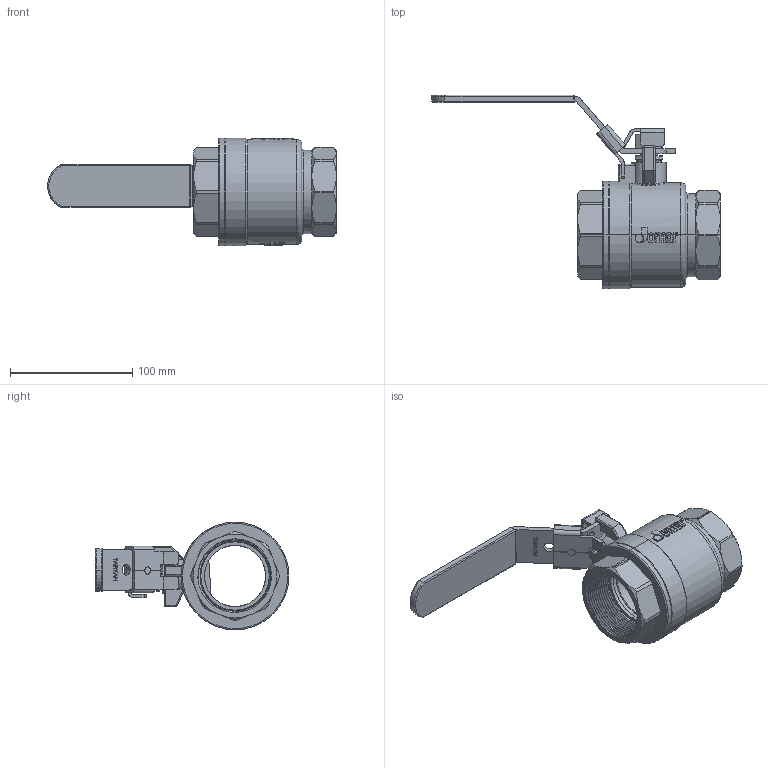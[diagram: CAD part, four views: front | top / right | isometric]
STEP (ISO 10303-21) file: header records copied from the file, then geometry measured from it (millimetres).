
FILE_DESCRIPTION (( 'STEP AP203' ), '1' );
FILE_NAME ('ABL748-有掛鎖-2''''JOMAR 球閥體組合-無鉛無插溝.STEP', '2025-12-15T07:51:58', ( '' ), ( '' ), 'SwSTEP 2.0', 'SolidWorks 2018', '' );
FILE_SCHEMA (( 'CONFIG_CONTROL_DESIGN' ));
Length unit declared in the file: millimetre
Products named in the file (14): EBL208C; BBL708A-2''''JOMAR八角頭-無鉛無插溝; DN40 & DN50-CBL747-白色膠套-T&G-200CSSG-LH; TBL269; EBL308; DN40-DN50-CBL747-HANDLE & SLEEVE 掛鎖組合; ABL748-有掛鎖-2''''JOMAR 球閥體組合-無鉛無插溝; BBL708-2''''JOMAR球閥體-無鉛-無插溝; DN50-本玛рも-CBL238э; DN50-掛鎖; EBL208B; NBL268; RBL267; GBL218
Assembly tree (14 placements, depth 3):
  ABL748-有掛鎖-2''''JOMAR 球閥體組合-無鉛無插溝
    BBL708-2''''JOMAR球閥體-無鉛-無插溝
    EBL208C
    EBL208B
    RBL267
    GBL218
    BBL708A-2''''JOMAR八角頭-無鉛無插溝
    EBL308  x2
    NBL268
    TBL269
    DN40-DN50-CBL747-HANDLE & SLEEVE 掛鎖組合
      DN50-本玛рも-CBL238э
      DN50-掛鎖
    DN40 & DN50-CBL747-白色膠套-T&G-200CSSG-LH
Bounding box: 235.71 x 158.31 x 88 mm (x, y, z)
Volume: 339979 mm3; surface area: 170873.3 mm2
Topology: 13 solids, 13 shells, 2405 faces, 6481 edges, 4278 vertices
Faces by surface type: plane 1251, bspline 664, cylinder 319, cone 134, torus 23, sphere 14
Entity records: 133900 total; most frequent: CARTESIAN_POINT 77702, ORIENTED_EDGE 12886, DIRECTION 8661, EDGE_CURVE 6443, VERTEX_POINT 4258, VECTOR 3959, LINE 3959, EDGE_LOOP 2603
